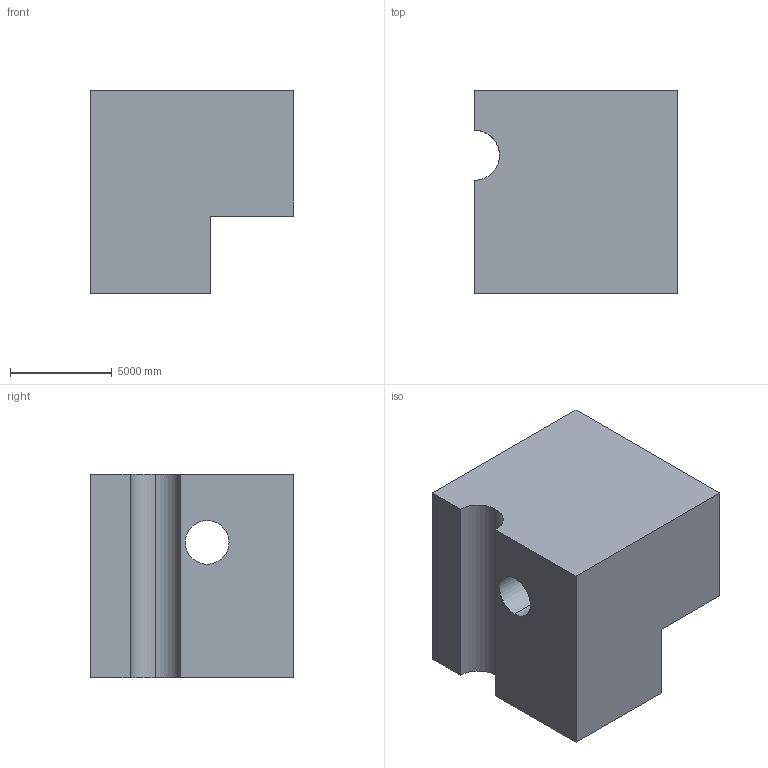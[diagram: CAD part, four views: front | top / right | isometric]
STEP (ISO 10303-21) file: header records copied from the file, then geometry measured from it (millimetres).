
FILE_DESCRIPTION (( 'STEP AP203' ), '1' );
FILE_NAME ('1237.STEP', '2022-08-18T13:19:51', ( 'user' ), ( '' ), 'SwSTEP 2.0', 'SolidWorks 2021', '' );
FILE_SCHEMA (( 'CONFIG_CONTROL_DESIGN' ));
Length unit declared in the file: centimetre
Products named in the file (1): 1237
Bounding box: 10000 x 10000 x 10000 mm (x, y, z)
Volume: 783719897046.4 mm3; surface area: 638440358.4 mm2
Topology: 1 solids, 1 shells, 13 faces, 33 edges, 22 vertices
Faces by surface type: plane 9, cylinder 4
Entity records: 476 total; most frequent: DIRECTION 69, CARTESIAN_POINT 69, ORIENTED_EDGE 66, EDGE_CURVE 33, LINE 25, VECTOR 25, VERTEX_POINT 22, AXIS2_PLACEMENT_3D 22
